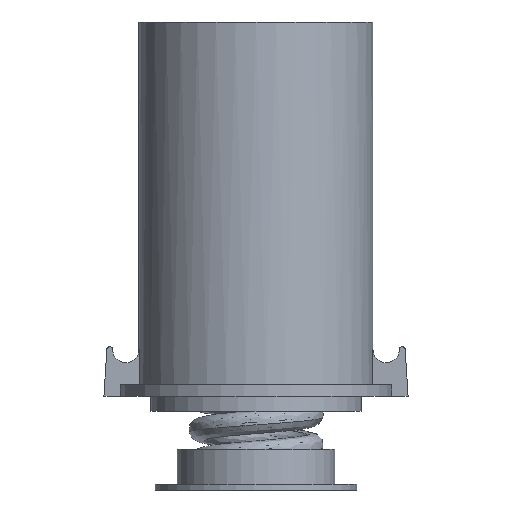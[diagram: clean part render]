
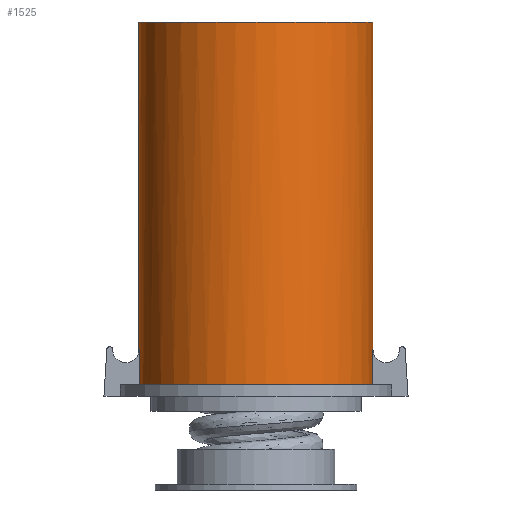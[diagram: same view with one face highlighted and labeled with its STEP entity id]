
A CAD part, front view. The second image highlights one B-rep face of the part: STEP entity #1525.
In plain terms, the highlighted cylindrical face has radius 63.5 mm (diameter 127 mm), a full revolution.
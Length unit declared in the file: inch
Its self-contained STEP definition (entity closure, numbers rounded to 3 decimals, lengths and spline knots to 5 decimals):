
#151=FACE_BOUND('',#360,.T.);
#259=FACE_OUTER_BOUND('',#359,.T.);
#359=EDGE_LOOP('',(#1162,#1163,#1164,#1165,#1166,#1167,#1168,#1169,#1170,
#1171));
#360=EDGE_LOOP('',(#1172));
#475=CIRCLE('',#1622,2.5);
#476=CIRCLE('',#1624,2.5);
#481=CIRCLE('',#1635,2.5);
#482=CIRCLE('',#1637,2.5);
#488=CIRCLE('',#1650,2.5);
#489=CIRCLE('',#1652,2.5);
#490=CIRCLE('',#1653,2.5);
#538=LINE('',#2152,#626);
#548=LINE('',#2184,#636);
#555=LINE('',#2199,#643);
#568=LINE('',#2237,#656);
#626=VECTOR('',#1774,0.75);
#636=VECTOR('',#1802,0.75);
#643=VECTOR('',#1817,0.75);
#656=VECTOR('',#1854,0.75);
#717=VERTEX_POINT('',#2149);
#718=VERTEX_POINT('',#2151);
#723=VERTEX_POINT('',#2163);
#724=VERTEX_POINT('',#2164);
#731=VERTEX_POINT('',#2183);
#734=VERTEX_POINT('',#2196);
#735=VERTEX_POINT('',#2198);
#740=VERTEX_POINT('',#2210);
#741=VERTEX_POINT('',#2211);
#748=VERTEX_POINT('',#2236);
#749=VERTEX_POINT('',#2248);
#866=EDGE_CURVE('',#718,#717,#538,.T.);
#872=EDGE_CURVE('',#723,#724,#475,.T.);
#875=EDGE_CURVE('',#724,#718,#476,.T.);
#882=EDGE_CURVE('',#731,#723,#548,.T.);
#889=EDGE_CURVE('',#735,#734,#555,.T.);
#895=EDGE_CURVE('',#740,#741,#481,.T.);
#898=EDGE_CURVE('',#741,#735,#482,.T.);
#908=EDGE_CURVE('',#748,#740,#568,.T.);
#913=EDGE_CURVE('',#734,#731,#488,.T.);
#914=EDGE_CURVE('',#717,#748,#489,.T.);
#915=EDGE_CURVE('',#749,#749,#490,.T.);
#1162=ORIENTED_EDGE('',*,*,#866,.T.);
#1163=ORIENTED_EDGE('',*,*,#914,.T.);
#1164=ORIENTED_EDGE('',*,*,#908,.T.);
#1165=ORIENTED_EDGE('',*,*,#895,.T.);
#1166=ORIENTED_EDGE('',*,*,#898,.T.);
#1167=ORIENTED_EDGE('',*,*,#889,.T.);
#1168=ORIENTED_EDGE('',*,*,#913,.T.);
#1169=ORIENTED_EDGE('',*,*,#882,.T.);
#1170=ORIENTED_EDGE('',*,*,#872,.T.);
#1171=ORIENTED_EDGE('',*,*,#875,.T.);
#1172=ORIENTED_EDGE('',*,*,#915,.F.);
#1485=CYLINDRICAL_SURFACE('',#1651,2.5);
#1525=ADVANCED_FACE('',(#259,#151),#1485,.T.);
#1622=AXIS2_PLACEMENT_3D('',#2165,#1784,#1785);
#1624=AXIS2_PLACEMENT_3D('',#2170,#1790,#1791);
#1635=AXIS2_PLACEMENT_3D('',#2212,#1827,#1828);
#1637=AXIS2_PLACEMENT_3D('',#2217,#1833,#1834);
#1650=AXIS2_PLACEMENT_3D('',#2245,#1868,#1869);
#1651=AXIS2_PLACEMENT_3D('',#2246,#1870,#1871);
#1652=AXIS2_PLACEMENT_3D('',#2247,#1872,#1873);
#1653=AXIS2_PLACEMENT_3D('',#2249,#1874,#1875);
#1774=DIRECTION('',(0.,0.,-1.));
#1784=DIRECTION('center_axis',(0.,0.,
1.));
#1785=DIRECTION('ref_axis',(1.,0.,0.));
#1790=DIRECTION('center_axis',(0.,0.,
1.));
#1791=DIRECTION('ref_axis',(1.,0.,0.));
#1802=DIRECTION('',(0.,0.,1.));
#1817=DIRECTION('',(0.,0.,-1.));
#1827=DIRECTION('center_axis',(0.,0.,
1.));
#1828=DIRECTION('ref_axis',(1.,0.,0.));
#1833=DIRECTION('center_axis',(0.,0.,
1.));
#1834=DIRECTION('ref_axis',(1.,0.,0.));
#1854=DIRECTION('',(0.,0.,1.));
#1868=DIRECTION('center_axis',(0.,0.,
1.));
#1869=DIRECTION('ref_axis',(1.,0.,0.));
#1870=DIRECTION('center_axis',(0.,0.,
-1.));
#1871=DIRECTION('ref_axis',(1.,0.,0.));
#1872=DIRECTION('center_axis',(0.,0.,
1.));
#1873=DIRECTION('ref_axis',(1.,0.,0.));
#1874=DIRECTION('center_axis',(0.,0.,
1.));
#1875=DIRECTION('ref_axis',(1.,0.,0.));
#2149=CARTESIAN_POINT('',(2.48747,0.25,2.25));
#2151=CARTESIAN_POINT('',(2.48747,0.25,3.));
#2152=CARTESIAN_POINT('',(2.48747,0.25,10.));
#2163=CARTESIAN_POINT('',(2.48747,-0.25,3.));
#2164=CARTESIAN_POINT('',(2.5,0.,3.));
#2165=CARTESIAN_POINT('Origin',(0.,0.,
3.));
#2170=CARTESIAN_POINT('Origin',(0.,0.,
3.));
#2183=CARTESIAN_POINT('',(2.48747,-0.25,2.25));
#2184=CARTESIAN_POINT('',(2.48747,-0.25,10.));
#2196=CARTESIAN_POINT('',(-2.48747,-0.25,2.25));
#2198=CARTESIAN_POINT('',(-2.48747,-0.25,3.));
#2199=CARTESIAN_POINT('',(-2.48747,-0.25,10.));
#2210=CARTESIAN_POINT('',(-2.48747,0.25,3.));
#2211=CARTESIAN_POINT('',(-2.5,0.,3.));
#2212=CARTESIAN_POINT('Origin',(0.,0.,
3.));
#2217=CARTESIAN_POINT('Origin',(0.,0.,
3.));
#2236=CARTESIAN_POINT('',(-2.48747,0.25,2.25));
#2237=CARTESIAN_POINT('',(-2.48747,0.25,10.));
#2245=CARTESIAN_POINT('Origin',(0.,0.,
2.25));
#2246=CARTESIAN_POINT('Origin',(0.,0.,
10.));
#2247=CARTESIAN_POINT('Origin',(0.,0.,
2.25));
#2248=CARTESIAN_POINT('',(-2.5,0.,10.));
#2249=CARTESIAN_POINT('Origin',(0.,0.,
10.));
